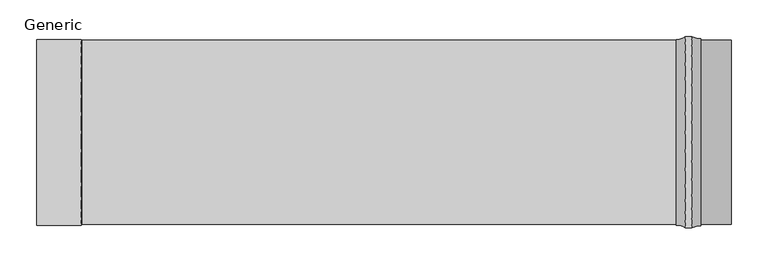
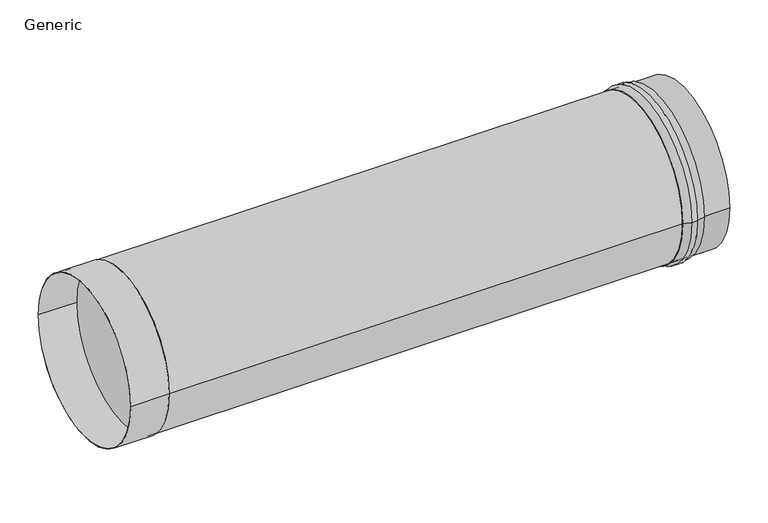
"""IFC4 building model written with IfcOpenShell, lengths in millimetres: pipe fitting geometry, CADS_Jeremias_Length_Socket : Generic."""

from ifc_helpers import new_model, si_unit, point, frame, origin, origin_2d, place, context, project, spatial, polyline, circle_curve, ellipse_curve, trimmed, segment, composite_curve, outline, extrude, source, transform, mapped, element, save
from ifc_brep_helpers import plane_surface, cylinder_surface, revolved_surface, advanced_brep


def generic_9a809b7e(model_context):
    return source(origin(), model_context, "Body", "SolidModel", [
        advanced_brep(
        [(959.0, 125.0, 0.0), (959.0, 126.9765092, 0.0), (959.0, -126.9765092, 0.0), (959.0, -125.0, 0.0), (926.0, 125.0, 0.0), (926.0, -125.0, 0.0), (926.0, 125.9881891, 0.0), (926.0, -125.9881891, 0.0), (938.0, 129.4883201, 0.0), (938.0, -129.4883201, 0.0), (947.0, 129.4883201, 0.0), (947.0, -129.4883201, 0.0)],
        [
            (0, 1),
            (1, 2, circle_curve(frame((959.0, 0.0, 0.0), z_axis=(1.0, 0.0, 0.0), x_axis=(0.0, -1.0, 0.0)), 126.9765092)),
            (2, 3),
            (3, 0, circle_curve(frame((959.0, 0.0, 0.0), z_axis=(-1.0, 0.0, 0.0), x_axis=(0.0, -1.0, 0.0)), 125.0)),
            (2, 1, circle_curve(frame((959.0, 0.0, 0.0), z_axis=(1.0, 0.0, 0.0), x_axis=(0.0, -1.0, 0.0)), 126.9765092)),
            (0, 3, circle_curve(frame((959.0, 0.0, 0.0), z_axis=(-1.0, 0.0, 0.0), x_axis=(0.0, -1.0, 0.0)), 125.0)),
            (4, 0),
            (3, 5),
            (5, 4, circle_curve(frame((926.0, 0.0, 0.0), z_axis=(-1.0, 0.0, 0.0), x_axis=(0.0, -1.0, 0.0)), 125.0)),
            (4, 5, circle_curve(frame((926.0, 0.0, 0.0), z_axis=(-1.0, 0.0, 0.0), x_axis=(0.0, -1.0, 0.0)), 125.0)),
            (6, 4),
            (5, 7),
            (7, 6, circle_curve(frame((926.0, 0.0, 0.0), z_axis=(-1.0, 0.0, 0.0), x_axis=(0.0, -1.0, 0.0)), 125.9881891)),
            (6, 7, circle_curve(frame((926.0, 0.0, 0.0), z_axis=(-1.0, 0.0, 0.0), x_axis=(0.0, -1.0, 0.0)), 125.9881891)),
            (8, 6, circle_curve(frame((926.0, 148.3089134, 0.0), z_axis=(0.0, 0.0, -1.0), x_axis=(-1.0, 0.0, 0.0)), 22.3207242)),
            (7, 9, circle_curve(frame((926.0, -148.3089134, 0.0), z_axis=(0.0, 0.0, -1.0), x_axis=(-1.0, 0.0, 0.0)), 22.3207242)),
            (9, 8, circle_curve(frame((938.0, 0.0, 0.0), z_axis=(-1.0, 0.0, 0.0), x_axis=(0.0, -1.0, 0.0)), 129.4883201)),
            (8, 9, circle_curve(frame((938.0, 0.0, 0.0), z_axis=(-1.0, 0.0, 0.0), x_axis=(0.0, -1.0, 0.0)), 129.4883201)),
            (10, 8),
            (9, 11),
            (11, 10, circle_curve(frame((947.0, 0.0, 0.0), z_axis=(-1.0, 0.0, 0.0), x_axis=(0.0, -1.0, 0.0)), 129.4883201)),
            (10, 11, circle_curve(frame((947.0, 0.0, 0.0), z_axis=(-1.0, 0.0, 0.0), x_axis=(0.0, -1.0, 0.0)), 129.4883201)),
            (1, 10, circle_curve(frame((959.0, 156.8969932, 0.0), z_axis=(0.0, 0.0, -1.0), x_axis=(-1.0, 0.0, 0.0)), 29.920484)),
            (11, 2, circle_curve(frame((959.0, -156.8969932, 0.0), z_axis=(0.0, 0.0, -1.0), x_axis=(-1.0, 0.0, 0.0)), 29.920484)),
        ],
        [
            plane_surface(frame((959.0, 0.0, 0.0), z_axis=(1.0, 0.0, 0.0), x_axis=(0.0, -1.0, 0.0))),
            revolved_surface(polyline([(959.0, -125.0, 0.0), (926.0, -125.0, 0.0)]), (-997.5, 0.0, 0.0), (1.0, 0.0, 0.0)),
            plane_surface(frame((926.0, 0.0, 0.0), z_axis=(-1.0, 0.0, 0.0), x_axis=(0.0, -1.0, 0.0))),
            revolved_surface(trimmed(ellipse_curve(frame((926.0, -148.3089134, 0.0), z_axis=(0.0, 0.0, -1.0), x_axis=(-1.0, 0.0, 0.0)), 22.3207242, 22.3207242), [point((926.0, -125.9881891, 0.0))], [point((938.0, -129.4883201, 0.0))], True, "CARTESIAN"), (-997.5, 0.0, 0.0), (1.0, 0.0, 0.0)),
            cylinder_surface(frame((-997.5, 0.0, 0.0), z_axis=(1.0, 0.0, 0.0), x_axis=(0.0, -1.0, 0.0)), 129.4883201),
            revolved_surface(trimmed(ellipse_curve(frame((959.0, -156.8969932, 0.0), z_axis=(0.0, 0.0, -1.0), x_axis=(-1.0, 0.0, 0.0)), 29.920484, 29.920484), [point((947.0, -129.4883201, 0.0))], [point((959.0, -126.9765092, 0.0))], True, "CARTESIAN"), (-997.5, 0.0, 0.0), (1.0, 0.0, 0.0)),
        ],
        [
            (0, [[1, 2, 3, 4]]),
            (0, [[-3, 5, -1, 6]]),
            (1, [[7, -4, 8, 9]]),
            (1, [[-8, -6, -7, 10]]),
            (2, [[11, -9, 12, 13]]),
            (2, [[-12, -10, -11, 14]]),
            (3, [[15, -13, 16, 17]]),
            (3, [[-16, -14, -15, 18]]),
            (4, [[19, -17, 20, 21]]),
            (4, [[-20, -18, -19, 22]]),
            (5, [[23, -21, 24, -2]]),
            (5, [[-24, -22, -23, -5]]),
        ],
    ),
        advanced_brep(
        [(60.0, 125.0, 0.0), (60.0, -125.0, 0.0), (121.0, -125.0, 0.0), (121.0, 125.0, 0.0), (120.0, -126.0, 0.0), (120.0, 126.0, 0.0), (60.0, -126.0, 0.0), (60.0, 126.0, 0.0)],
        [
            (0, 1, circle_curve(frame((60.0, 0.0, 0.0), z_axis=(-1.0, 0.0, 0.0), x_axis=(0.0, -1.0, 0.0)), 125.0)),
            (1, 2),
            (2, 3, circle_curve(frame((121.0, 0.0, 0.0), z_axis=(1.0, 0.0, 0.0), x_axis=(0.0, -1.0, 0.0)), 125.0)),
            (3, 0),
            (2, 4),
            (4, 5, circle_curve(frame((120.0, 0.0, 0.0), z_axis=(1.0, 0.0, 0.0), x_axis=(0.0, -1.0, 0.0)), 126.0)),
            (5, 3),
            (4, 6),
            (6, 7, circle_curve(frame((60.0, 0.0, 0.0), z_axis=(1.0, 0.0, 0.0), x_axis=(0.0, -1.0, 0.0)), 126.0)),
            (7, 5),
            (1, 0, circle_curve(frame((60.0, 0.0, 0.0), z_axis=(-1.0, 0.0, 0.0), x_axis=(0.0, 1.0, 0.0)), 125.0)),
            (3, 2, circle_curve(frame((121.0, 0.0, 0.0), z_axis=(1.0, 0.0, 0.0), x_axis=(0.0, 1.0, 0.0)), 125.0)),
            (5, 4, circle_curve(frame((120.0, 0.0, 0.0), z_axis=(1.0, 0.0, 0.0), x_axis=(0.0, 1.0, 0.0)), 126.0)),
            (7, 6, circle_curve(frame((60.0, 0.0, 0.0), z_axis=(1.0, 0.0, 0.0), x_axis=(0.0, 1.0, 0.0)), 126.0)),
        ],
        [
            revolved_surface(polyline([(121.0, -125.0, 0.0), (60.0, -125.0, 0.0)]), (60.0, 0.0, 0.0), (1.0, 0.0, 0.0)),
            revolved_surface(polyline([(120.0, -126.0, 0.0), (121.0, -125.0, 0.0)]), (60.0, 0.0, 0.0), (1.0, 0.0, 0.0)),
            cylinder_surface(frame((60.0, 0.0, 0.0), z_axis=(1.0, 0.0, 0.0), x_axis=(0.0, -1.0, 0.0)), 126.0),
            revolved_surface(polyline([(121.0, 125.0, 0.0), (60.0, 125.0, 0.0)]), (60.0, 0.0, 0.0), (1.0, 0.0, 0.0)),
            revolved_surface(polyline([(120.0, 126.0, 0.0), (121.0, 125.0, 0.0)]), (60.0, 0.0, 0.0), (1.0, 0.0, 0.0)),
            cylinder_surface(frame((60.0, 0.0, 0.0), z_axis=(1.0, 0.0, 0.0), x_axis=(0.0, 1.0, 0.0)), 126.0),
            plane_surface(frame((60.0, 0.0, 0.0), z_axis=(-1.0, 0.0, 0.0), x_axis=(0.0, 1.0, 0.0))),
        ],
        [
            (0, [[1, 2, 3, 4]]),
            (1, [[-3, 5, 6, 7]]),
            (2, [[-6, 8, 9, 10]]),
            (3, [[11, -4, 12, -2]]),
            (4, [[-12, -7, 13, -5]]),
            (5, [[-13, -10, 14, -8]]),
            (6, [[-14, -9], [-11, -1]]),
        ],
    ),
        extrude(outline(composite_curve([segment(trimmed(circle_curve(origin_2d(), 125.0), [point((-125.0, 0.0))], [point((125.0, 0.0))], False, "CARTESIAN"), True, "CONTINUOUS"), segment(trimmed(circle_curve(origin_2d(), 125.0), [point((125.0, 0.0))], [point((-125.0, 0.0))], False, "CARTESIAN"), True, "CONTINUOUS")], self_intersect=False)), frame((940.0, 0.0, 0.0), z_axis=(1.0, 0.0, 0.0), x_axis=(0.0, 1.0, 0.0)), (0.0, 0.0, 1.0), 60.0),
        extrude(outline(composite_curve([segment(trimmed(circle_curve(origin_2d(), 125.0), [point((125.0, 0.0))], [point((-125.0, 0.0))], False, "CARTESIAN"), True, "CONTINUOUS"), segment(trimmed(circle_curve(origin_2d(), 125.0), [point((-125.0, 0.0))], [point((125.0, 0.0))], False, "CARTESIAN"), True, "CONTINUOUS")], self_intersect=False)), frame((120.0, 0.0, 0.0), z_axis=(1.0, 0.0, 0.0), x_axis=(0.0, 1.0, 0.0)), (0.0, 0.0, 1.0), 820.0),
    ])


if __name__ == "__main__":
    model = new_model("IFC4")
    model_context = context("Model", 3, world=origin())
    ifc_project = project(units=[si_unit("LENGTHUNIT", "METRE", prefix="MILLI")], contexts=[model_context])
    site = spatial("IfcSite", under=ifc_project)
    building = spatial("IfcBuilding", under=site)
    placement = place(None, origin())
    generic_shape = generic_9a809b7e(model_context)
    element("IfcPipeFitting", 1, ObjectType="CADS_Jeremias_Length_Socket : Generic", at=placement, inside=building, context=model_context, shape_type="MappedRepresentation", body=[
        mapped(generic_shape, transform((0.0, 0.0, 0.0), x_axis=(1.0, 0.0, 0.0), y_axis=(0.0, 1.0, 0.0), z_axis=(0.0, 0.0, 1.0))),
    ])
    save(model, "model.ifc")
